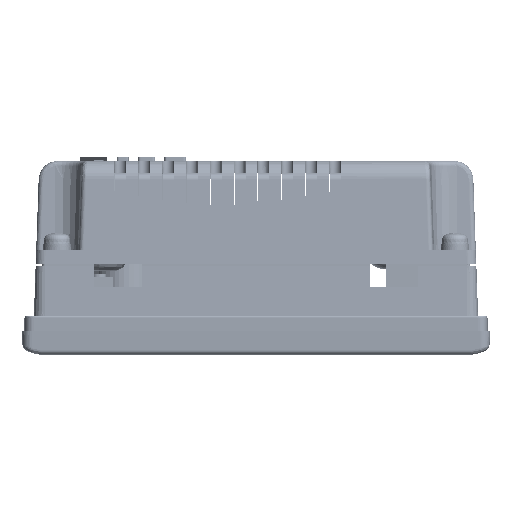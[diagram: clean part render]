
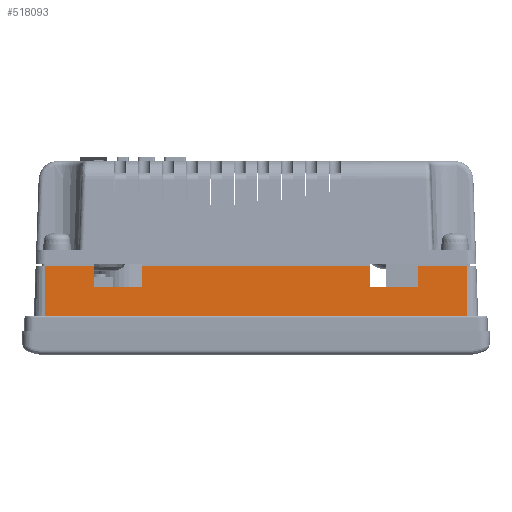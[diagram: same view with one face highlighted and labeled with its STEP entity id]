
A CAD part, left-side view. The second image highlights one B-rep face of the part: STEP entity #518093.
In plain terms, the highlighted planar face has unit normal (-0.999, 0, 0.035).
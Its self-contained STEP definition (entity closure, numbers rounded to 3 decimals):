
#220873=CARTESIAN_POINT('',(-110.15,-71.45,9.259));
#220874=VERTEX_POINT('',#220873);
#220875=CARTESIAN_POINT('',(-110.3,-71.45,4.959));
#220876=VERTEX_POINT('',#220875);
#220877=CARTESIAN_POINT('',(-110.15,-71.45,9.259));
#220878=DIRECTION('',(-0.035,0.0,-0.999));
#220879=VECTOR('',#220878,4.303);
#220880=LINE('',#220877,#220879);
#220881=EDGE_CURVE('',#220874,#220876,#220880,.T.);
#220952=CARTESIAN_POINT('',(-110.3,-61.45,4.959));
#220953=VERTEX_POINT('',#220952);
#220954=CARTESIAN_POINT('',(-110.15,-61.45,9.259));
#220955=VERTEX_POINT('',#220954);
#220956=CARTESIAN_POINT('',(-110.3,-61.45,4.959));
#220957=DIRECTION('',(0.035,0.0,0.999));
#220958=VECTOR('',#220957,4.303);
#220959=LINE('',#220956,#220958);
#220960=EDGE_CURVE('',#220953,#220955,#220959,.T.);
#221031=CARTESIAN_POINT('',(-110.3,-71.45,4.959));
#221032=DIRECTION('',(0.0,1.0,0.0));
#221033=VECTOR('',#221032,10.);
#221034=LINE('',#221031,#221033);
#221035=EDGE_CURVE('',#220876,#220953,#221034,.T.);
#262350=CARTESIAN_POINT('',(-110.15,-13.45,9.259));
#262351=VERTEX_POINT('',#262350);
#262352=CARTESIAN_POINT('',(-110.3,-13.45,4.959));
#262353=VERTEX_POINT('',#262352);
#262354=CARTESIAN_POINT('',(-110.15,-13.45,9.259));
#262355=DIRECTION('',(-0.035,0.0,-0.999));
#262356=VECTOR('',#262355,4.303);
#262357=LINE('',#262354,#262356);
#262358=EDGE_CURVE('',#262351,#262353,#262357,.T.);
#262429=CARTESIAN_POINT('',(-110.3,-3.45,4.959));
#262430=VERTEX_POINT('',#262429);
#262431=CARTESIAN_POINT('',(-110.15,-3.45,9.259));
#262432=VERTEX_POINT('',#262431);
#262433=CARTESIAN_POINT('',(-110.3,-3.45,4.959));
#262434=DIRECTION('',(0.035,0.0,0.999));
#262435=VECTOR('',#262434,4.303);
#262436=LINE('',#262433,#262435);
#262437=EDGE_CURVE('',#262430,#262432,#262436,.T.);
#262508=CARTESIAN_POINT('',(-110.3,-13.45,4.959));
#262509=DIRECTION('',(0.0,1.0,0.0));
#262510=VECTOR('',#262509,10.);
#262511=LINE('',#262508,#262510);
#262512=EDGE_CURVE('',#262353,#262430,#262511,.T.);
#262785=CARTESIAN_POINT('',(-110.15,-81.65,9.259));
#262786=VERTEX_POINT('',#262785);
#262787=CARTESIAN_POINT('',(-110.15,-71.45,9.259));
#262788=DIRECTION('',(0.0,-1.0,0.0));
#262789=VECTOR('',#262788,10.2);
#262790=LINE('',#262787,#262789);
#262791=EDGE_CURVE('',#220874,#262786,#262790,.T.);
#262841=CARTESIAN_POINT('',(-110.15,-13.45,9.259));
#262842=DIRECTION('',(0.0,-1.0,0.0));
#262843=VECTOR('',#262842,48.);
#262844=LINE('',#262841,#262843);
#262845=EDGE_CURVE('',#262351,#220955,#262844,.T.);
#265102=CARTESIAN_POINT('',(-110.524,6.75,-1.441));
#265103=VERTEX_POINT('',#265102);
#265111=CARTESIAN_POINT('',(-110.15,6.75,9.259));
#265112=VERTEX_POINT('',#265111);
#265113=CARTESIAN_POINT('',(-110.524,6.75,-1.441));
#265114=DIRECTION('',(0.035,0.,0.999));
#265115=VECTOR('',#265114,10.707);
#265116=LINE('',#265113,#265115);
#265117=EDGE_CURVE('',#265103,#265112,#265116,.T.);
#265138=CARTESIAN_POINT('',(-110.15,6.75,9.259));
#265139=DIRECTION('',(0.0,-1.0,0.0));
#265140=VECTOR('',#265139,10.2);
#265141=LINE('',#265138,#265140);
#265142=EDGE_CURVE('',#265112,#262432,#265141,.T.);
#518049=CARTESIAN_POINT('',(-110.524,-81.65,-1.441));
#518050=VERTEX_POINT('',#518049);
#518060=CARTESIAN_POINT('',(-110.15,-81.65,9.259));
#518061=DIRECTION('',(-0.035,0.,-0.999));
#518062=VECTOR('',#518061,10.707);
#518063=LINE('',#518060,#518062);
#518064=EDGE_CURVE('',#262786,#518050,#518063,.T.);
#518069=CARTESIAN_POINT('',(-110.15,8.75,9.259));
#518070=DIRECTION('',(-0.999,0.,0.035));
#518071=DIRECTION('',(0.035,0.,0.999));
#518072=AXIS2_PLACEMENT_3D('',#518069,#518070,#518071);
#518073=PLANE('',#518072);
#518074=CARTESIAN_POINT('',(-110.524,6.75,-1.441));
#518075=DIRECTION('',(0.0,-1.0,0.0));
#518076=VECTOR('',#518075,88.4);
#518077=LINE('',#518074,#518076);
#518078=EDGE_CURVE('',#265103,#518050,#518077,.T.);
#518079=ORIENTED_EDGE('',*,*,#518078,.T.);
#518080=ORIENTED_EDGE('',*,*,#518064,.F.);
#518081=ORIENTED_EDGE('',*,*,#262791,.F.);
#518082=ORIENTED_EDGE('',*,*,#220881,.T.);
#518083=ORIENTED_EDGE('',*,*,#221035,.T.);
#518084=ORIENTED_EDGE('',*,*,#220960,.T.);
#518085=ORIENTED_EDGE('',*,*,#262845,.F.);
#518086=ORIENTED_EDGE('',*,*,#262358,.T.);
#518087=ORIENTED_EDGE('',*,*,#262512,.T.);
#518088=ORIENTED_EDGE('',*,*,#262437,.T.);
#518089=ORIENTED_EDGE('',*,*,#265142,.F.);
#518090=ORIENTED_EDGE('',*,*,#265117,.F.);
#518091=EDGE_LOOP('',(#518079,#518080,#518081,#518082,#518083,#518084,#518085,#518086,#518087,#518088,#518089,#518090));
#518092=FACE_OUTER_BOUND('',#518091,.T.);
#518093=ADVANCED_FACE('',(#518092),#518073,.T.);
